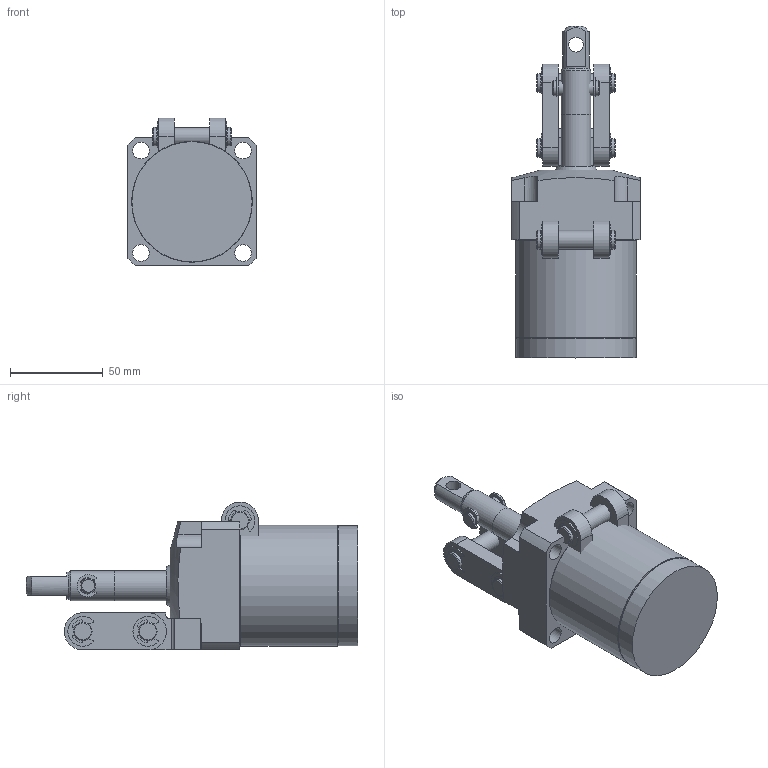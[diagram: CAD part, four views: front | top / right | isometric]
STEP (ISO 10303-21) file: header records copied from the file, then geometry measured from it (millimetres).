
FILE_DESCRIPTION( ( '' ), '1' );
FILE_NAME( 'W:/Catalogue/JL5H/JL5H42-28KR/JL5H42-28KR.stp', '2008-05-26T02:03:47', ( '機械事業部産業機器グループ' ), ( '豊和工業株式会社' ), 'XStep 1.0', ' ', ' ' );
FILE_SCHEMA( ( 'CONFIG_CONTROL_DESIGN' ) );
Length unit declared in the file: millimetre
Products named in the file (5): Assem1; 1; 2; 3; 4
Bounding box: 69 x 178.5 x 79.5 mm (x, y, z)
Volume: 717277.7 mm3; surface area: 134131.2 mm2
Topology: 8 solids, 10 shells, 514 faces, 1360 edges, 894 vertices
Faces by surface type: plane 260, cylinder 214, cone 38, torus 2
Full cylindrical faces by diameter (mm): 2 x2, 6 x4, 8 x16, 9 x8, 10 x14, 11 x4, 14.5 x2, 16 x4, 18 x2, 22 x2, 26 x4, 42 x4, 64 x4, 64.7 x2, 65 x2
Entity records: 7944 total; most frequent: CARTESIAN_POINT 1449, DIRECTION 1383, ORIENTED_EDGE 1196, EDGE_CURVE 598, AXIS2_PLACEMENT_3D 541, VERTEX_POINT 424, EDGE_LOOP 351, LINE 301
